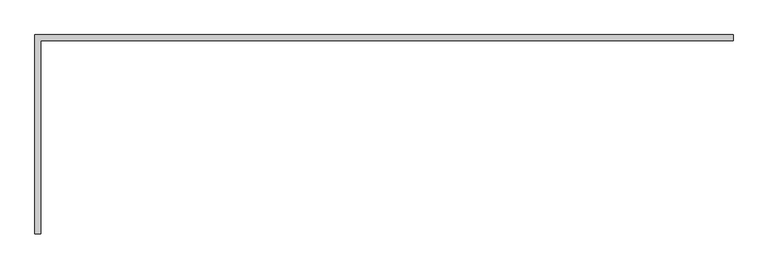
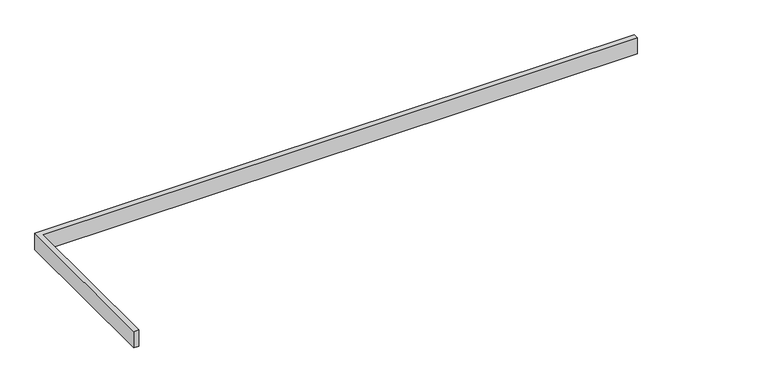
"""IFC4 building model written with IfcOpenShell, lengths in millimetres: proxy geometry, Modelos genéricos 15 : Modelos genéricos 40."""

from ifc_helpers import new_model, si_unit, frame, origin, place, context, project, spatial, polyline, outline, extrude, source, transform, mapped, element, save


def generic_models_e2f1e12d(model_context):
    return source(origin(), model_context, "Body", "SweptSolid", [
        extrude(outline(polyline([(-24283.9546758, -12784.5871375), (-26713.9546758, -12784.5871375), (-26713.9546758, -13464.5871375), (-26733.9546758, -13464.5871375), (-26733.9546758, -12764.5871375), (-24283.9546758, -12764.5871375), (-24283.9546758, -12784.5871375)])), frame((0.0, 0.0, 900.0), z_axis=(0.0, 0.0, 1.0), x_axis=(1.0, 0.0, 0.0)), (0.0, 0.0, 1.0), 70.0),
    ])


if __name__ == "__main__":
    model = new_model("IFC4")
    model_context = context("Model", 3, world=origin())
    ifc_project = project(units=[si_unit("LENGTHUNIT", "METRE", prefix="MILLI")], contexts=[model_context])
    site = spatial("IfcSite", under=ifc_project)
    building = spatial("IfcBuilding", under=site)
    placement = place(None, origin())
    generic_models_shape = generic_models_e2f1e12d(model_context)
    element("IfcBuildingElementProxy", 1, Name="Modelos genéricos 15 : Modelos genéricos 40", ObjectType="Modelos genéricos 15 : Modelos genéricos 40", at=placement, inside=building, context=model_context, shape_type="MappedRepresentation", body=[
        mapped(generic_models_shape, transform((0.0, 0.0, 0.0), x_axis=(1.0, 0.0, 0.0), y_axis=(0.0, 1.0, 0.0), z_axis=(0.0, 0.0, 1.0))),
    ])
    save(model, "model.ifc")
